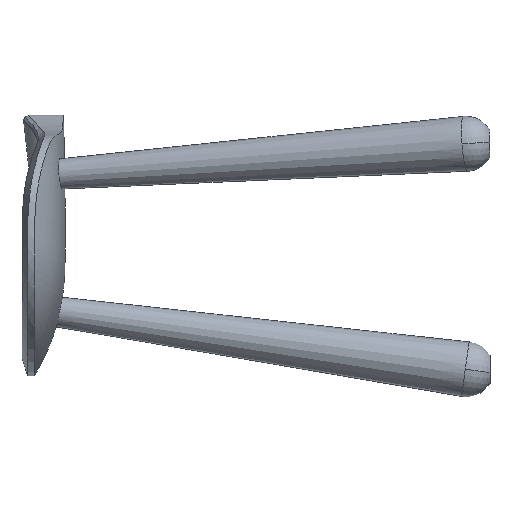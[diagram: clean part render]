
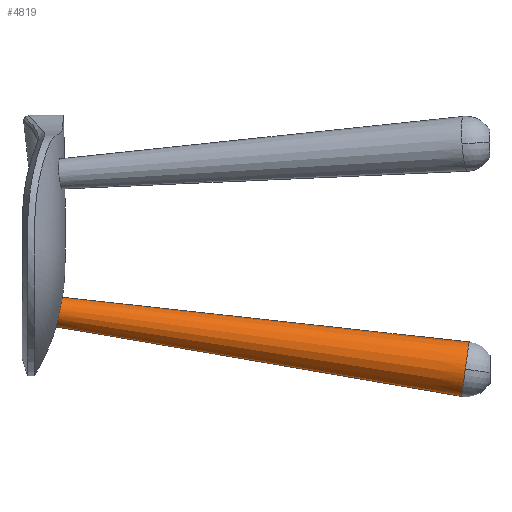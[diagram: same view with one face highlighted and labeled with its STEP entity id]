
A CAD part, left-side view. The second image highlights one B-rep face of the part: STEP entity #4819.
In plain terms, the highlighted conical face has half-angle 1.737 degrees and reference radius 25.388 mm.
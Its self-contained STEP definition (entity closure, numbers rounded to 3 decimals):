
#238 = CARTESIAN_POINT ( 'NONE',  ( -13.186, 396.434, 60.256 ) ) ;
#292 = CARTESIAN_POINT ( 'NONE',  ( -13.734, 397.875, 53.651 ) ) ;
#338 = CARTESIAN_POINT ( 'NONE',  ( -0.911, 400.488, 42.293 ) ) ;
#440 = CARTESIAN_POINT ( 'NONE',  ( 0., 26.305, -21.941 ) ) ;
#499 = VECTOR ( 'NONE', #9114, 1000. ) ;
#565 = ORIENTED_EDGE ( 'NONE', *, *, #5408, .F. ) ;
#969 = CARTESIAN_POINT ( 'NONE',  ( -8.113, 395.099, 66.979 ) ) ;
#1019 = CARTESIAN_POINT ( 'NONE',  ( -11.829, 395.861, 63.077 ) ) ;
#1072 = CARTESIAN_POINT ( 'NONE',  ( -11.067, 395.638, 64.199 ) ) ;
#1170 = CARTESIAN_POINT ( 'NONE',  ( -9.197, 399.761, 45.636 ) ) ;
#1391 = B_SPLINE_CURVE_WITH_KNOTS ( 'NONE', 3,
 ( #3361, #4699, #7117, #3205, #3984, #1885, #6379, #3933, #2574, #969, #1741, #9206, #9354, #5436, #1072, #1019, #7786, #4861, #8527, #238, #6227, #6176, #7682, #2479, #9161, #8422, #6966, #292, #3257, #2522, #8472, #7836, #5536, #1840, #6277, #4654, #1170, #5392, #1788, #7734, #3407, #8376, #4037, #1700, #7015, #9309, #338, #4133, #3307 ),
 .UNSPECIFIED., .F., .F.,
 ( 4, 2, 2, 2, 2, 2, 2, 2, 2, 1, 2, 2, 2, 2, 2, 2, 2, 2, 2, 2, 2, 2, 2, 2, 4 ),
 ( 0., 0.003, 0.004, 0.005, 0.008, 0.01, 0.011, 0.014, 0.015, 0.016, 0.018, 0.019, 0.022, 0.023, 0.025, 0.027, 0.029, 0.03, 0.033, 0.035, 0.037, 0.038, 0.041, 0.042, 0.044 ),
 .UNSPECIFIED. ) ;
#1507 = CIRCLE ( 'NONE', #5701, 25.388 ) ;
#1568 = CARTESIAN_POINT ( 'NONE',  ( 0., 400.492, 42.271 ) ) ;
#1700 = CARTESIAN_POINT ( 'NONE',  ( -3.618, 400.404, 42.711 ) ) ;
#1741 = CARTESIAN_POINT ( 'NONE',  ( -8.481, 395.151, 66.71 ) ) ;
#1788 = CARTESIAN_POINT ( 'NONE',  ( -7.364, 400.059, 44.331 ) ) ;
#1840 = CARTESIAN_POINT ( 'NONE',  ( -11.822, 399.033, 48.694 ) ) ;
#1885 = CARTESIAN_POINT ( 'NONE',  ( -4.478, 394.739, 68.815 ) ) ;
#2007 = LINE ( 'NONE', #4433, #8971 ) ;
#2044 = DIRECTION ( 'NONE',  ( 0., -0.99, -0.139 ) ) ;
#2300 = DIRECTION ( 'NONE',  ( 0., -0.99, -0.139 ) ) ;
#2479 = CARTESIAN_POINT ( 'NONE',  ( -13.915, 397.179, 56.762 ) ) ;
#2522 = CARTESIAN_POINT ( 'NONE',  ( -13.205, 398.371, 51.499 ) ) ;
#2558 = DIRECTION ( 'NONE',  ( 0., -0.99, -0.139 ) ) ;
#2574 = CARTESIAN_POINT ( 'NONE',  ( -6.977, 394.953, 67.725 ) ) ;
#2702 = VERTEX_POINT ( 'NONE', #6546 ) ;
#2763 = CONICAL_SURFACE ( 'NONE', #7965, 25.388, 0.03 ) ;
#2779 = CARTESIAN_POINT ( 'NONE',  ( 0., 22.771, 3.2 ) ) ;
#2787 = ORIENTED_EDGE ( 'NONE', *, *, #6356, .F. ) ;
#3027 = DIRECTION ( 'NONE',  ( 0., 0.139, -0.99 ) ) ;
#3205 = CARTESIAN_POINT ( 'NONE',  ( -3.161, 394.666, 69.184 ) ) ;
#3257 = CARTESIAN_POINT ( 'NONE',  ( -13.467, 398.175, 52.345 ) ) ;
#3307 = CARTESIAN_POINT ( 'NONE',  ( 0., 400.492, 42.271 ) ) ;
#3361 = CARTESIAN_POINT ( 'NONE',  ( 0., 394.598, 69.534 ) ) ;
#3407 = CARTESIAN_POINT ( 'NONE',  ( -6.169, 400.202, 43.679 ) ) ;
#3905 = EDGE_CURVE ( 'NONE', #6348, #4381, #6229, .T. ) ;
#3933 = CARTESIAN_POINT ( 'NONE',  ( -6.178, 394.871, 68.146 ) ) ;
#3984 = CARTESIAN_POINT ( 'NONE',  ( -3.602, 394.687, 69.076 ) ) ;
#3992 = CIRCLE ( 'NONE', #7121, 25.388 ) ;
#4037 = CARTESIAN_POINT ( 'NONE',  ( -4.486, 400.351, 42.97 ) ) ;
#4133 = CARTESIAN_POINT ( 'NONE',  ( -0.455, 400.492, 42.271 ) ) ;
#4275 = CARTESIAN_POINT ( 'NONE',  ( 0., 26.305, -21.941 ) ) ;
#4381 = VERTEX_POINT ( 'NONE', #4275 ) ;
#4433 = CARTESIAN_POINT ( 'NONE',  ( 0., 19.238, 28.342 ) ) ;
#4654 = CARTESIAN_POINT ( 'NONE',  ( -10.494, 399.46, 46.905 ) ) ;
#4699 = CARTESIAN_POINT ( 'NONE',  ( -0.921, 394.598, 69.534 ) ) ;
#4819 = ADVANCED_FACE ( 'NONE', ( #6906 ), #2763, .T. ) ;
#4861 = CARTESIAN_POINT ( 'NONE',  ( -12.494, 396.097, 61.9 ) ) ;
#4977 = DIRECTION ( 'NONE',  ( 0., -0.994, -0.109 ) ) ;
#5126 = ORIENTED_EDGE ( 'NONE', *, *, #5625, .T. ) ;
#5290 = VERTEX_POINT ( 'NONE', #8929 ) ;
#5341 = EDGE_LOOP ( 'NONE', ( #6602, #5126, #8893, #565, #2787 ) ) ;
#5392 = CARTESIAN_POINT ( 'NONE',  ( -8.493, 399.892, 45.072 ) ) ;
#5408 = EDGE_CURVE ( 'NONE', #7075, #4381, #3992, .T. ) ;
#5436 = CARTESIAN_POINT ( 'NONE',  ( -10.491, 395.504, 64.888 ) ) ;
#5520 = DIRECTION ( 'NONE',  ( 0., 0.139, -0.99 ) ) ;
#5536 = CARTESIAN_POINT ( 'NONE',  ( -12.056, 398.943, 49.074 ) ) ;
#5625 = EDGE_CURVE ( 'NONE', #5290, #6348, #1391, .T. ) ;
#5701 = AXIS2_PLACEMENT_3D ( 'NONE', #8254, #2300, #3027 ) ;
#6176 = CARTESIAN_POINT ( 'NONE',  ( -13.561, 396.706, 58.964 ) ) ;
#6227 = CARTESIAN_POINT ( 'NONE',  ( -13.45, 396.613, 59.402 ) ) ;
#6229 = LINE ( 'NONE', #440, #499 ) ;
#6277 = CARTESIAN_POINT ( 'NONE',  ( -11.068, 399.296, 47.591 ) ) ;
#6348 = VERTEX_POINT ( 'NONE', #1568 ) ;
#6356 = EDGE_CURVE ( 'NONE', #2702, #7075, #1507, .T. ) ;
#6379 = CARTESIAN_POINT ( 'NONE',  ( -4.913, 394.769, 68.662 ) ) ;
#6535 = DIRECTION ( 'NONE',  ( 0., 0.139, -0.99 ) ) ;
#6546 = CARTESIAN_POINT ( 'NONE',  ( 0., 19.238, 28.342 ) ) ;
#6602 = ORIENTED_EDGE ( 'NONE', *, *, #8513, .F. ) ;
#6906 = FACE_OUTER_BOUND ( 'NONE', #5341, .T. ) ;
#6966 = CARTESIAN_POINT ( 'NONE',  ( -13.802, 397.775, 54.095 ) ) ;
#7015 = CARTESIAN_POINT ( 'NONE',  ( -2.279, 400.457, 42.448 ) ) ;
#7075 = VERTEX_POINT ( 'NONE', #9465 ) ;
#7117 = CARTESIAN_POINT ( 'NONE',  ( -1.826, 394.615, 69.445 ) ) ;
#7121 = AXIS2_PLACEMENT_3D ( 'NONE', #2779, #2044, #6535 ) ;
#7682 = CARTESIAN_POINT ( 'NONE',  ( -13.828, 396.987, 57.645 ) ) ;
#7734 = CARTESIAN_POINT ( 'NONE',  ( -6.974, 400.11, 44.102 ) ) ;
#7786 = CARTESIAN_POINT ( 'NONE',  ( -12.065, 395.938, 62.689 ) ) ;
#7836 = CARTESIAN_POINT ( 'NONE',  ( -12.486, 398.757, 49.86 ) ) ;
#7965 = AXIS2_PLACEMENT_3D ( 'NONE', #9242, #2558, #5520 ) ;
#8254 = CARTESIAN_POINT ( 'NONE',  ( 0., 22.771, 3.2 ) ) ;
#8376 = CARTESIAN_POINT ( 'NONE',  ( -5.752, 400.243, 43.485 ) ) ;
#8422 = CARTESIAN_POINT ( 'NONE',  ( -13.892, 397.574, 54.986 ) ) ;
#8472 = CARTESIAN_POINT ( 'NONE',  ( -12.683, 398.661, 50.267 ) ) ;
#8513 = EDGE_CURVE ( 'NONE', #5290, #2702, #2007, .T. ) ;
#8527 = CARTESIAN_POINT ( 'NONE',  ( -12.881, 396.261, 61.094 ) ) ;
#8893 = ORIENTED_EDGE ( 'NONE', *, *, #3905, .T. ) ;
#8929 = CARTESIAN_POINT ( 'NONE',  ( 0., 394.598, 69.534 ) ) ;
#8971 = VECTOR ( 'NONE', #4977, 1000. ) ;
#9114 = DIRECTION ( 'NONE',  ( 0., -0.986, -0.169 ) ) ;
#9161 = CARTESIAN_POINT ( 'NONE',  ( -13.914, 397.474, 55.431 ) ) ;
#9206 = CARTESIAN_POINT ( 'NONE',  ( -9.191, 395.262, 66.138 ) ) ;
#9242 = CARTESIAN_POINT ( 'NONE',  ( 0., 22.771, 3.2 ) ) ;
#9309 = CARTESIAN_POINT ( 'NONE',  ( -1.826, 400.47, 42.382 ) ) ;
#9354 = CARTESIAN_POINT ( 'NONE',  ( -9.528, 395.32, 65.836 ) ) ;
#9465 = CARTESIAN_POINT ( 'NONE',  ( -25.388, 22.771, 3.2 ) ) ;
